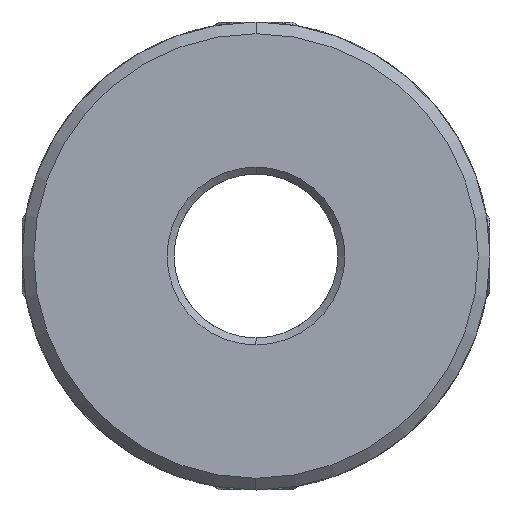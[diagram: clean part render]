
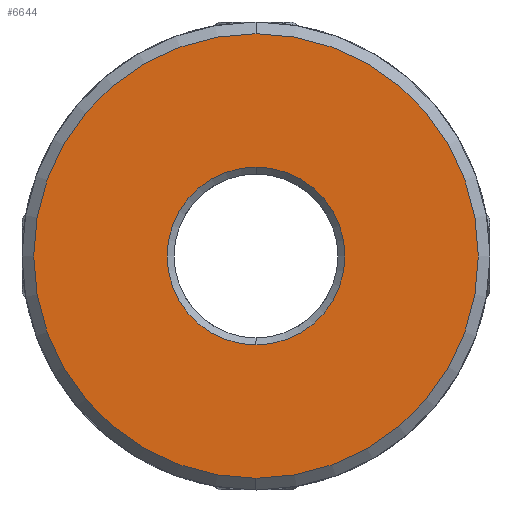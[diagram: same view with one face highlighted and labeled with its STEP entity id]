
A CAD part, front view. The second image highlights one B-rep face of the part: STEP entity #6644.
In plain terms, the highlighted planar face has unit normal (0, -1, 0).
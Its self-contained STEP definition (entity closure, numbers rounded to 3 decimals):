
#316 = EDGE_CURVE ( 'NONE', #2343, #9098, #7044, .T. ) ;
#604 = FACE_BOUND ( 'NONE', #3662, .T. ) ;
#1709 = AXIS2_PLACEMENT_3D ( 'NONE', #7424, #5451, #2542 ) ;
#1794 = PLANE ( 'NONE',  #1709 ) ;
#2343 = VERTEX_POINT ( 'NONE', #4813 ) ;
#2542 = DIRECTION ( 'NONE',  ( 0., 0., -1. ) ) ;
#2770 = ORIENTED_EDGE ( 'NONE', *, *, #8258, .T. ) ;
#2851 = CARTESIAN_POINT ( 'NONE',  ( 0., -23., 0. ) ) ;
#3245 = DIRECTION ( 'NONE',  ( 0., -1., 0. ) ) ;
#3556 = ORIENTED_EDGE ( 'NONE', *, *, #316, .T. ) ;
#3582 = DIRECTION ( 'NONE',  ( 0., 0., -1. ) ) ;
#3658 = AXIS2_PLACEMENT_3D ( 'NONE', #3924, #3245, #7717 ) ;
#3662 = EDGE_LOOP ( 'NONE', ( #3556, #2770 ) ) ;
#3877 = EDGE_CURVE ( 'NONE', #5750, #7638, #3950, .T. ) ;
#3924 = CARTESIAN_POINT ( 'NONE',  ( 0., -23., 0. ) ) ;
#3950 = CIRCLE ( 'NONE', #3658, 9.5 ) ;
#4004 = AXIS2_PLACEMENT_3D ( 'NONE', #2851, #5913, #3582 ) ;
#4046 = FACE_OUTER_BOUND ( 'NONE', #6606, .T. ) ;
#4082 = AXIS2_PLACEMENT_3D ( 'NONE', #5697, #6512, #8687 ) ;
#4149 = CIRCLE ( 'NONE', #4082, 3.8 ) ;
#4236 = ORIENTED_EDGE ( 'NONE', *, *, #3877, .T. ) ;
#4813 = CARTESIAN_POINT ( 'NONE',  ( 0., -23., 3.8 ) ) ;
#5070 = DIRECTION ( 'NONE',  ( 0., 0., -1. ) ) ;
#5178 = CARTESIAN_POINT ( 'NONE',  ( 0., -23., 9.5 ) ) ;
#5366 = CIRCLE ( 'NONE', #4004, 9.5 ) ;
#5451 = DIRECTION ( 'NONE',  ( 0., 1., 0. ) ) ;
#5697 = CARTESIAN_POINT ( 'NONE',  ( 0., -23., 0. ) ) ;
#5750 = VERTEX_POINT ( 'NONE', #5178 ) ;
#5848 = CARTESIAN_POINT ( 'NONE',  ( 0., -23., -3.8 ) ) ;
#5913 = DIRECTION ( 'NONE',  ( 0., -1., 0. ) ) ;
#6417 = CARTESIAN_POINT ( 'NONE',  ( 0., -23., -9.5 ) ) ;
#6512 = DIRECTION ( 'NONE',  ( 0., 1., 0. ) ) ;
#6606 = EDGE_LOOP ( 'NONE', ( #6993, #4236 ) ) ;
#6644 = ADVANCED_FACE ( 'NONE', ( #604, #4046 ), #1794, .F. ) ;
#6993 = ORIENTED_EDGE ( 'NONE', *, *, #7225, .T. ) ;
#7044 = CIRCLE ( 'NONE', #8599, 3.8 ) ;
#7225 = EDGE_CURVE ( 'NONE', #7638, #5750, #5366, .T. ) ;
#7424 = CARTESIAN_POINT ( 'NONE',  ( 50., -23., -15.365 ) ) ;
#7638 = VERTEX_POINT ( 'NONE', #6417 ) ;
#7717 = DIRECTION ( 'NONE',  ( 0., 0., -1. ) ) ;
#8258 = EDGE_CURVE ( 'NONE', #9098, #2343, #4149, .T. ) ;
#8599 = AXIS2_PLACEMENT_3D ( 'NONE', #8785, #9527, #5070 ) ;
#8687 = DIRECTION ( 'NONE',  ( 0., 0., -1. ) ) ;
#8785 = CARTESIAN_POINT ( 'NONE',  ( 0., -23., 0. ) ) ;
#9098 = VERTEX_POINT ( 'NONE', #5848 ) ;
#9527 = DIRECTION ( 'NONE',  ( 0., 1., 0. ) ) ;
